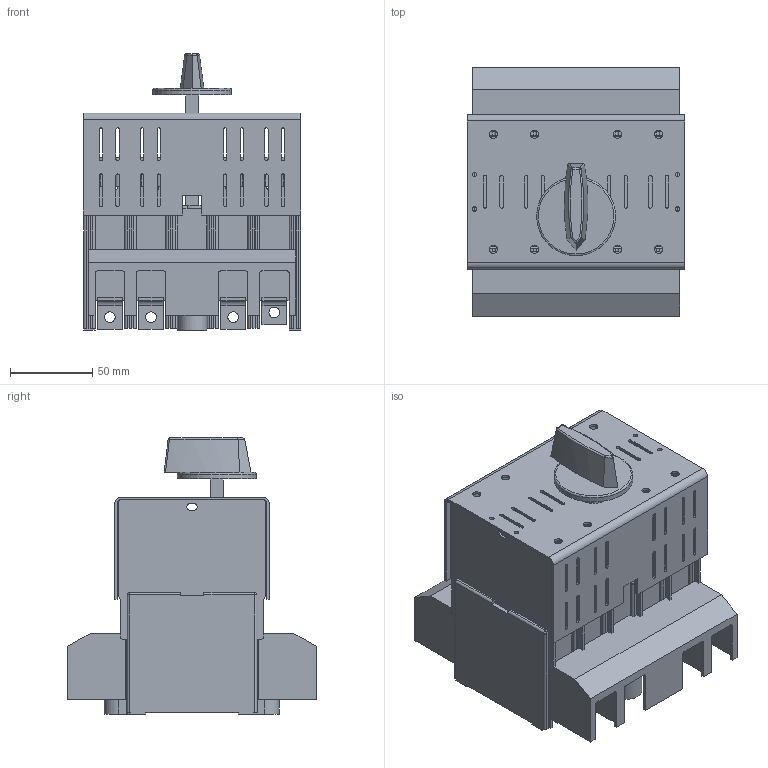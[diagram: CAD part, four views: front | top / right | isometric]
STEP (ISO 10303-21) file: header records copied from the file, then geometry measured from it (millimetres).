
FILE_DESCRIPTION(/* description */ (''),/* implementation_level */ '2;1');
FILE_NAME(/* name */ 'RAB 000 P3 NA-R, P4 A-R z oslona zacikow.stp',/* time_stamp */ '2021-08-19T09:33:51+02:00',/* author */ (''),/* organization */ (''),/* preprocessor_version */ 'ST-DEVELOPER v18.1',/* originating_system */ 'SIEMENS PLM Software NX 1965',/* authorisation */ '');
FILE_SCHEMA (('AUTOMOTIVE_DESIGN { 1 0 10303 214 3 1 1 1 }'));
Length unit declared in the file: millimetre
Products named in the file (1): RAB 000 P3 NA-R, P4 A-R z oslona zacikow
Bounding box: 132.5 x 151.03 x 168 mm (x, y, z)
Volume: 788163 mm3; surface area: 266709.5 mm2
Topology: 1 solids, 1 shells, 1281 faces, 3708 edges, 2407 vertices
Faces by surface type: plane 840, cylinder 344, extrusion 64, sphere 25, bspline 7, torus 1
Full cylindrical faces by diameter (mm): 2.7 x4, 5 x8, 5.8 x2, 6.5 x8, 10 x2, 11.5 x2, 20 x1, 48 x1
Entity records: 42694 total; most frequent: CARTESIAN_POINT 8911, ORIENTED_EDGE 7274, DIRECTION 6631, EDGE_CURVE 3637, VECTOR 2821, LINE 2757, VERTEX_POINT 2376, AXIS2_PLACEMENT_3D 1905
